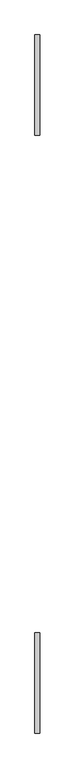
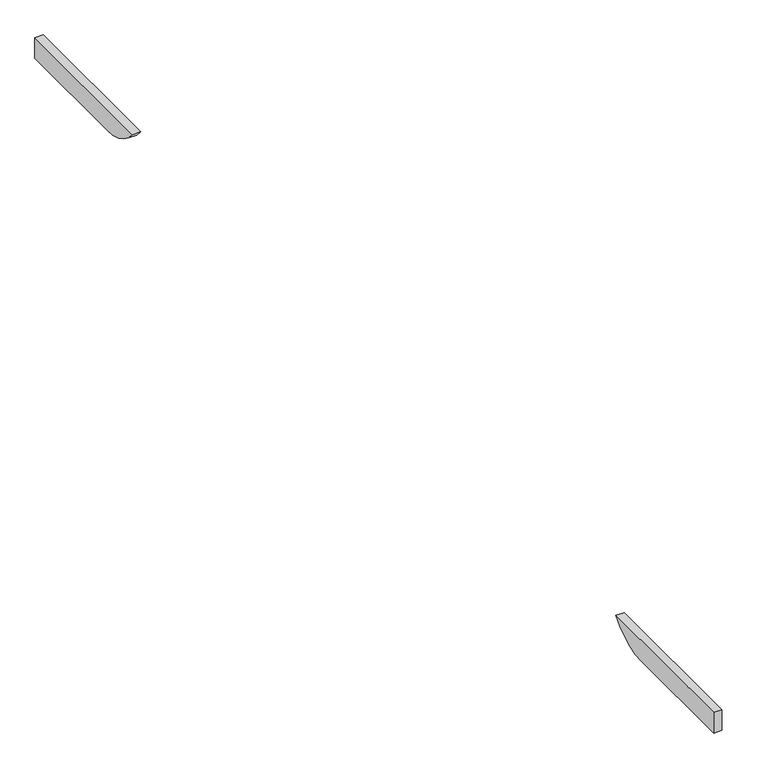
"""IFC4 building model written with IfcOpenShell, lengths in millimetres: proxy geometry, Modelos genéricos 142 : Modelos genéricos 2."""

from ifc_helpers import new_model, si_unit, point, frame, frame_2d, origin, place, context, project, spatial, polyline, circle_curve, trimmed, segment, composite_curve, outline, extrude, source, transform, mapped, element, save


def generic_models_49826fd5(model_context):
    return source(origin(), model_context, "Body", "SweptSolid", [
        extrude(outline(composite_curve([segment(polyline([(-2331.3761835, 2840.0), (-2331.3761835, 3000.0), (-1101.3761835, 3000.0)]), True, "CONTINUOUS"), segment(trimmed(circle_curve(frame_2d((-1421.3761835, 3240.0)), 400.0), [point((-1101.3761835, 3000.0))], [point((-1421.3761835, 2840.0))], False, "CARTESIAN"), True, "CONTINUOUS"), segment(polyline([(-1421.3761835, 2840.0), (-2331.3761835, 2840.0)]), True, "CONTINUOUS")], self_intersect=False)), frame((69873.4472467, 0.0, 0.0), z_axis=(1.0, 0.0, 0.0), x_axis=(0.0, 1.0, 0.0)), (0.0, 0.0, 1.0), 60.0),
        extrude(outline(composite_curve([segment(polyline([(6228.6238165, 2840.0), (5318.6238165, 2840.0)]), True, "CONTINUOUS"), segment(trimmed(circle_curve(frame_2d((5318.6238165, 3240.0)), 400.0), [point((5318.6238165, 2840.0))], [point((4998.6238165, 3000.0))], False, "CARTESIAN"), True, "CONTINUOUS"), segment(polyline([(4998.6238165, 3000.0), (6228.6238165, 3000.0), (6228.6238165, 2840.0)]), True, "CONTINUOUS")], self_intersect=False)), frame((69873.4472467, 0.0, 0.0), z_axis=(1.0, 0.0, 0.0), x_axis=(0.0, 1.0, 0.0)), (0.0, 0.0, 1.0), 60.0),
    ])


if __name__ == "__main__":
    model = new_model("IFC4")
    model_context = context("Model", 3, world=origin())
    ifc_project = project(units=[si_unit("LENGTHUNIT", "METRE", prefix="MILLI")], contexts=[model_context])
    site = spatial("IfcSite", under=ifc_project)
    building = spatial("IfcBuilding", under=site)
    placement = place(None, origin())
    generic_models_shape = generic_models_49826fd5(model_context)
    element("IfcBuildingElementProxy", 1, Name="Modelos genéricos 142 : Modelos genéricos 2", ObjectType="Modelos genéricos 142 : Modelos genéricos 2", at=placement, inside=building, context=model_context, shape_type="MappedRepresentation", body=[
        mapped(generic_models_shape, transform((0.0, 0.0, 0.0), x_axis=(1.0, 0.0, 0.0), y_axis=(0.0, 1.0, 0.0), z_axis=(0.0, 0.0, 1.0))),
    ])
    save(model, "model.ifc")
